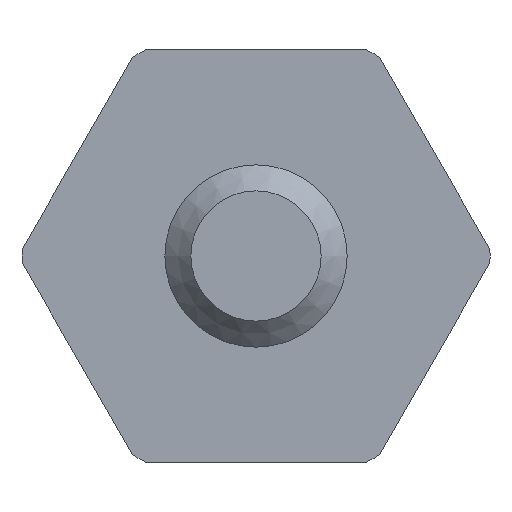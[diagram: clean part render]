
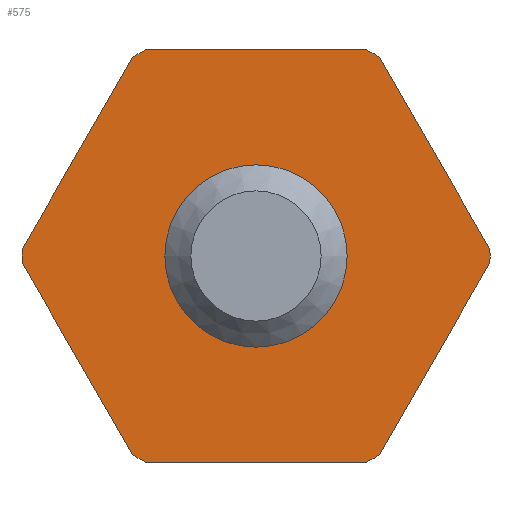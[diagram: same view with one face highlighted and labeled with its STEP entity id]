
A CAD part, left-side view. The second image highlights one B-rep face of the part: STEP entity #575.
In plain terms, the highlighted planar face has unit normal (-1, 0, 0).
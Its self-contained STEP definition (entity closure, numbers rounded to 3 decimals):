
#13=LINE($,#877,#43);
#18=LINE($,#888,#48);
#23=LINE($,#899,#53);
#28=LINE($,#910,#58);
#33=LINE($,#921,#63);
#41=LINE($,#962,#71);
#43=VECTOR($,#707,4.266);
#48=VECTOR($,#714,4.266);
#53=VECTOR($,#721,4.266);
#58=VECTOR($,#728,4.266);
#63=VECTOR($,#735,4.266);
#71=VECTOR($,#795,4.266);
#89=PLANE($,#647);
#114=FACE_BOUND($,#200,.T.);
#147=FACE_OUTER_BOUND($,#199,.T.);
#199=EDGE_LOOP($,(#459,#460,#461,#462,#463,#464,#465,#466,#467,#468,#469,
#470));
#200=EDGE_LOOP($,(#471));
#230=CIRCLE($,#627,4.5);
#231=CIRCLE($,#629,4.5);
#232=CIRCLE($,#631,4.5);
#233=CIRCLE($,#633,4.5);
#234=CIRCLE($,#635,4.5);
#239=CIRCLE($,#646,1.266);
#240=CIRCLE($,#648,4.5);
#256=VERTEX_POINT($,#873);
#258=VERTEX_POINT($,#876);
#261=VERTEX_POINT($,#884);
#263=VERTEX_POINT($,#887);
#266=VERTEX_POINT($,#895);
#268=VERTEX_POINT($,#898);
#271=VERTEX_POINT($,#906);
#273=VERTEX_POINT($,#909);
#276=VERTEX_POINT($,#917);
#278=VERTEX_POINT($,#920);
#284=VERTEX_POINT($,#948);
#285=VERTEX_POINT($,#952);
#290=VERTEX_POINT($,#976);
#305=EDGE_CURVE($,#258,#256,#13,.T.);
#310=EDGE_CURVE($,#263,#261,#18,.T.);
#315=EDGE_CURVE($,#268,#266,#23,.T.);
#320=EDGE_CURVE($,#273,#271,#28,.T.);
#325=EDGE_CURVE($,#278,#276,#33,.T.);
#341=EDGE_CURVE($,#258,#284,#230,.T.);
#344=EDGE_CURVE($,#285,#276,#231,.T.);
#345=EDGE_CURVE($,#278,#271,#232,.T.);
#346=EDGE_CURVE($,#273,#266,#233,.T.);
#347=EDGE_CURVE($,#268,#261,#234,.T.);
#348=EDGE_CURVE($,#285,#284,#41,.T.);
#353=EDGE_CURVE($,#290,#290,#239,.T.);
#354=EDGE_CURVE($,#263,#256,#240,.T.);
#459=ORIENTED_EDGE($,*,*,#305,.T.);
#460=ORIENTED_EDGE($,*,*,#354,.F.);
#461=ORIENTED_EDGE($,*,*,#310,.T.);
#462=ORIENTED_EDGE($,*,*,#347,.F.);
#463=ORIENTED_EDGE($,*,*,#315,.T.);
#464=ORIENTED_EDGE($,*,*,#346,.F.);
#465=ORIENTED_EDGE($,*,*,#320,.T.);
#466=ORIENTED_EDGE($,*,*,#345,.F.);
#467=ORIENTED_EDGE($,*,*,#325,.T.);
#468=ORIENTED_EDGE($,*,*,#344,.F.);
#469=ORIENTED_EDGE($,*,*,#348,.T.);
#470=ORIENTED_EDGE($,*,*,#341,.F.);
#471=ORIENTED_EDGE($,*,*,#353,.T.);
#575=ADVANCED_FACE($,(#147,#114),#89,.T.);
#627=AXIS2_PLACEMENT_3D($,#949,#773,#774);
#629=AXIS2_PLACEMENT_3D($,#954,#779,#780);
#631=AXIS2_PLACEMENT_3D($,#956,#783,#784);
#633=AXIS2_PLACEMENT_3D($,#958,#787,#788);
#635=AXIS2_PLACEMENT_3D($,#960,#791,#792);
#646=AXIS2_PLACEMENT_3D($,#977,#814,#815);
#647=AXIS2_PLACEMENT_3D($,#978,#816,#817);
#648=AXIS2_PLACEMENT_3D($,#979,#818,#819);
#707=DIRECTION($,(0.,0.5,-0.866));
#714=DIRECTION($,(0.,-0.5,-0.866));
#721=DIRECTION($,(0.,-1.,0.));
#728=DIRECTION($,(0.,-0.5,0.866));
#735=DIRECTION($,(0.,0.5,0.866));
#773=DIRECTION('center_axis',(1.,0.,0.));
#774=DIRECTION('ref_axis',(0.,0.,
-1.));
#779=DIRECTION('center_axis',(1.,0.,0.));
#780=DIRECTION('ref_axis',(0.,0.,
-1.));
#783=DIRECTION('center_axis',(1.,0.,0.));
#784=DIRECTION('ref_axis',(0.,0.,
-1.));
#787=DIRECTION('center_axis',(1.,0.,0.));
#788=DIRECTION('ref_axis',(0.,0.,
-1.));
#791=DIRECTION('center_axis',(1.,0.,0.));
#792=DIRECTION('ref_axis',(0.,0.,
-1.));
#795=DIRECTION($,(0.,1.,0.));
#814=DIRECTION('center_axis',(1.,0.,0.));
#815=DIRECTION('ref_axis',(0.,0.,
-1.));
#816=DIRECTION('center_axis',(-1.,0.,0.));
#817=DIRECTION('ref_axis',(0.,0.,1.));
#818=DIRECTION('center_axis',(1.,0.,0.));
#819=DIRECTION('ref_axis',(0.,0.,
-1.));
#873=CARTESIAN_POINT('',(-19.087,17.937,-1.669));
#876=CARTESIAN_POINT('',(-19.087,15.804,2.026));
#877=CARTESIAN_POINT($,(-19.087,17.498,-0.909));
#884=CARTESIAN_POINT('',(-19.087,15.804,-5.631));
#887=CARTESIAN_POINT('',(-19.087,17.937,-1.937));
#888=CARTESIAN_POINT($,(-19.087,17.367,-2.923));
#895=CARTESIAN_POINT('',(-19.087,11.306,-5.765));
#898=CARTESIAN_POINT('',(-19.087,15.572,-5.765));
#899=CARTESIAN_POINT($,(-19.087,15.558,-5.765));
#906=CARTESIAN_POINT('',(-19.087,8.941,-1.937));
#909=CARTESIAN_POINT('',(-19.087,11.074,-5.631));
#910=CARTESIAN_POINT($,(-19.087,10.504,-4.645));
#917=CARTESIAN_POINT('',(-19.087,11.074,2.026));
#920=CARTESIAN_POINT('',(-19.087,8.941,-1.669));
#921=CARTESIAN_POINT($,(-19.087,10.635,1.266));
#948=CARTESIAN_POINT('',(-19.087,15.572,2.16));
#949=CARTESIAN_POINT('Origin',(-19.087,13.439,-1.803));
#952=CARTESIAN_POINT('',(-19.087,11.306,2.16));
#954=CARTESIAN_POINT('Origin',(-19.087,13.439,-1.803));
#956=CARTESIAN_POINT('Origin',(-19.087,13.439,-1.803));
#958=CARTESIAN_POINT('Origin',(-19.087,13.439,-1.803));
#960=CARTESIAN_POINT('Origin',(-19.087,13.439,-1.803));
#962=CARTESIAN_POINT($,(-19.087,15.82,2.16));
#976=CARTESIAN_POINT('',(-19.087,14.705,-1.803));
#977=CARTESIAN_POINT('Origin',(-19.087,13.439,-1.803));
#978=CARTESIAN_POINT('Origin',(-19.087,17.939,-1.803));
#979=CARTESIAN_POINT('Origin',(-19.087,13.439,-1.803));
